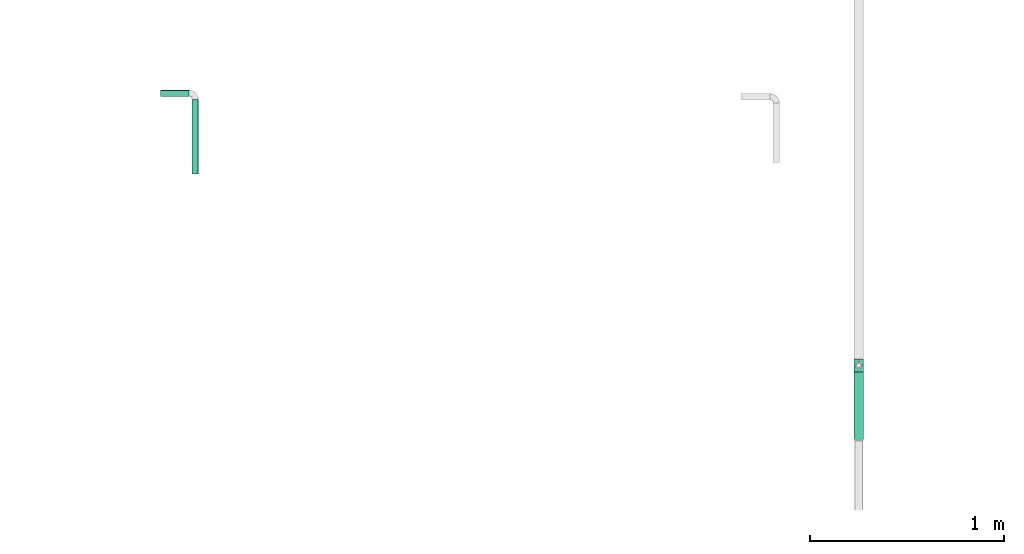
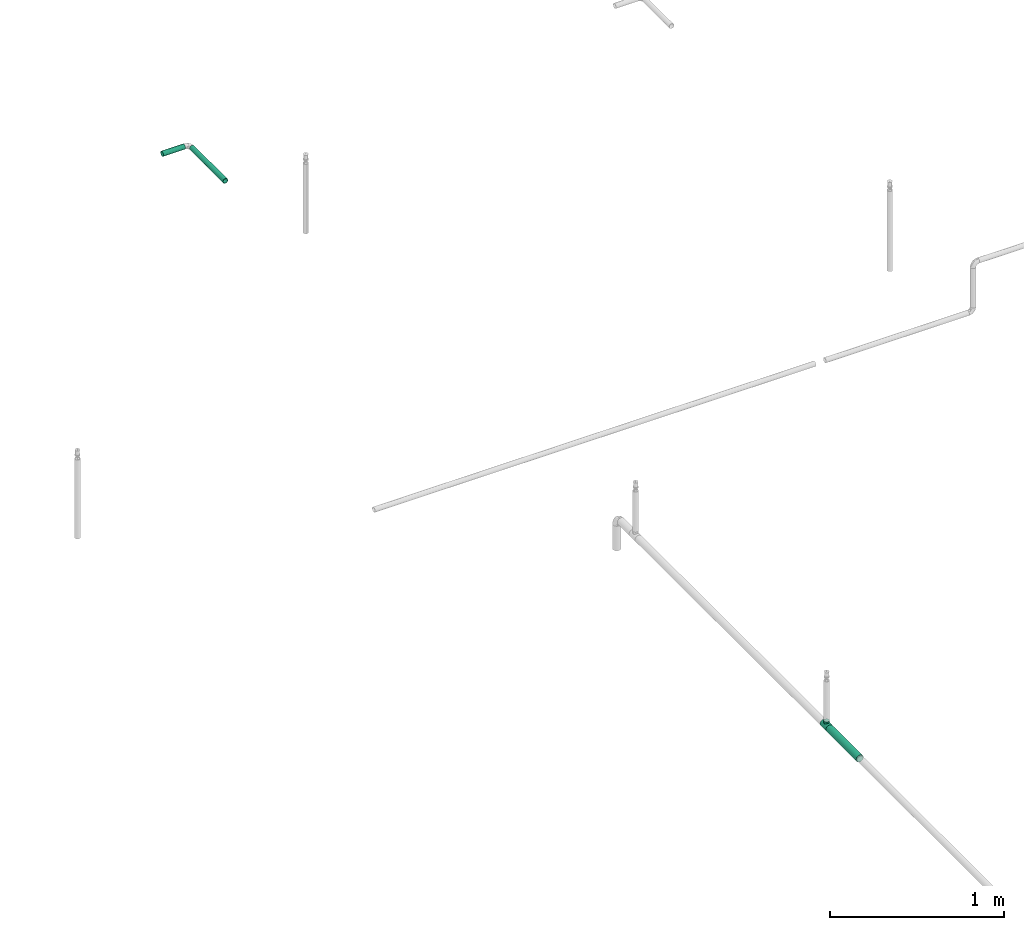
# One storey, part 5 of 63: 3 flow segments, 1 flow fitting.
"""IFC2X3 building model written with IfcOpenShell, lengths in millimetres."""

from ifc_helpers import new_model, entity, si_unit, converted_unit, derived_unit, direction, frame, origin_with_axes, origin_2d_with_axis, place, context, subcontext, project, spatial, hollow_circle, extrude, open_shell, surface_model, source, transform, mapped, type_object, element, save


model = new_model("IFC2X3")

# Units and contexts
model_context = context("Model", 3, precision=0.01, world=frame((0.0, 4.29681676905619e-09, 0.0)), true_north=direction((4.01073788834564e-13, 1.0)))
plan_context = context("Plan", 3, precision=0.01, world=frame((0.0, 4.29681676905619e-09, 0.0)), true_north=direction((4.01073788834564e-13, 1.0)))
body_context = subcontext(model_context, "Body", "Model", "MODEL_VIEW")
ifc_project = project(units=[converted_unit("PLANEANGLEUNIT", "DEGREE", entity("IfcPositiveLengthMeasure", 0.0174532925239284), si_unit("PLANEANGLEUNIT", "RADIAN"), dimensions=[0, 0, 0, 0, 0, 0, 0]), si_unit("AREAUNIT", "SQUARE_METRE"), si_unit("LENGTHUNIT", "METRE", prefix="MILLI"), si_unit("MASSUNIT", "GRAM", prefix="KILO"), si_unit("POWERUNIT", "WATT"), si_unit("PRESSUREUNIT", "PASCAL", prefix="KILO"), si_unit("FORCEUNIT", "NEWTON", prefix="KILO"), si_unit("ELECTRICVOLTAGEUNIT", "VOLT"), si_unit("ELECTRICCURRENTUNIT", "AMPERE"), si_unit("THERMODYNAMICTEMPERATUREUNIT", "DEGREE_CELSIUS"), si_unit("TIMEUNIT", "SECOND"), si_unit("VOLUMEUNIT", "CUBIC_METRE"), derived_unit("LINEARVELOCITYUNIT", [(si_unit("LENGTHUNIT", "METRE"), 1), (si_unit("TIMEUNIT", "SECOND"), -1)]), derived_unit("VOLUMETRICFLOWRATEUNIT", [(si_unit("VOLUMEUNIT", "CUBIC_METRE"), 1), (si_unit("TIMEUNIT", "SECOND"), -1)]), derived_unit("THERMALTRANSMITTANCEUNIT", [(si_unit("POWERUNIT", "WATT"), 1), (si_unit("THERMODYNAMICTEMPERATUREUNIT", "KELVIN"), -1), (si_unit("AREAUNIT", "SQUARE_METRE"), -1)]), derived_unit("SOUNDPRESSUREUNIT", [(si_unit("PRESSUREUNIT", "PASCAL"), 1)])], contexts=[model_context, plan_context])

# Site, building, storey
site_placement = place(None, frame((0.0, -4.29681676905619e-09, 0.0), z_axis=(0.0, 0.0, 1.0), x_axis=(1.0, 0.0, 0.0)))
site = spatial("IfcSite", under=ifc_project, at=site_placement, CompositionType="ELEMENT")
building_placement = place(site_placement, frame((0.0, 4.29681676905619e-09, 0.0), z_axis=(0.0, 0.0, 1.0), x_axis=(1.0, 0.0, 0.0)))
building = spatial("IfcBuilding", under=site, at=building_placement, Name="mc-building", CompositionType="ELEMENT")
storey_placement = place(building_placement, frame((0.0, 0.0, 207370.0), z_axis=(0.0, 0.0, 1.0), x_axis=(1.0, 0.0, 0.0)))
storey = spatial("IfcBuildingStorey", under=building, at=storey_placement, Name="Nivå E", CompositionType="ELEMENT", Elevation=207370.0)

# Flow fitting
pipe_fitting_type = type_object("IfcPipeFittingType", Name="magi_pipe_fe_tee_centric_90_NOR", PredefinedType="JUNCTION")
shared_shape_1 = source(origin_with_axes(), body_context, "Body", "SurfaceModel", [
    surface_model("IfcShellBasedSurfaceModel", [(-33.8, 0.0, -24.2), (-33.8, -6.26342, -23.37541), (-33.8, 6.26342, -23.37541), (-33.8, 12.1, -20.95781), (-33.8, 17.11198, -17.11198), (-33.8, 20.95781, -12.1), (-33.8, -23.37541, -6.26342), (-33.8, 23.37541, -6.26342), (-33.8, -17.11198, -17.11198), (-33.8, -20.95781, -12.1), (-33.8, -12.1, -20.95781), (-33.8, -24.2, 0.0), (-33.8, -23.37541, 6.26342), (-33.8, 20.95781, 12.1), (-33.8, 23.37541, 6.26342), (-33.8, 24.2, 0.0), (-33.8, 12.1, 20.95781), (-33.8, 17.11198, 17.11198), (-33.8, -17.11198, 17.11198), (-33.8, 6.26342, 23.37541), (-33.8, -20.95781, 12.1), (-33.8, -12.1, 20.95781), (-33.8, -6.26342, 23.37541), (-33.8, 0.0, 24.2), (33.8, 6.26342, -23.37541), (33.8, -6.26342, -23.37541), (33.8, 0.0, -24.2), (33.8, 17.11198, -17.11198), (33.8, 12.1, -20.95781), (33.8, -23.37541, -6.26342), (33.8, 20.95781, -12.1), (33.8, 23.37541, -6.26342), (33.8, -17.11198, -17.11198), (33.8, -12.1, -20.95781), (33.8, -20.95781, -12.1), (33.8, -24.2, 0.0), (33.8, 24.2, 0.0), (33.8, 23.37541, 6.26342), (33.8, 20.95781, 12.1), (33.8, -23.37541, 6.26342), (33.8, -17.11198, 17.11198), (33.8, 12.1, 20.95781), (33.8, 17.11198, 17.11198), (33.8, 6.26342, 23.37541), (33.8, -20.95781, 12.1), (33.8, -12.1, 20.95781), (33.8, 0.0, 24.2), (33.8, -6.26342, 23.37541), (15.81824, -23.45734, 5.94922), (16.9, -24.2, 0.0), (12.87025, -21.57947, 10.95293), (33.8, -19.0349, 14.60599), (8.52813, -19.30697, 14.59044), (3.03527, -17.5853, 16.6252), (-3.04044, -17.58619, 16.62425), (-8.52961, -19.30762, 14.58958), (-33.8, -19.0349, 14.60599), (-16.9, -24.2, 0.0), (-15.81885, -23.45775, 5.9476), (-12.87368, -21.58151, 10.9489), (3.03527, -17.5853, -16.6252), (33.8, -19.0349, -14.60599), (8.52813, -19.30697, -14.59044), (-8.52961, -19.30762, -14.58958), (-33.8, -19.0349, -14.60599), (12.87025, -21.57947, -10.95293), (-3.04044, -17.58619, -16.62425), (15.81824, -23.45734, -5.94922), (-12.87368, -21.58151, -10.9489), (-15.81885, -23.45775, -5.9476), (4.37404, -36.3, -16.32415), (-16.9, -36.3, 0.0), (0.0, -36.3, -16.9), (14.63583, -36.3, -8.45), (8.45, -36.3, -14.63583), (16.32415, -36.3, -4.37404), (11.9501, -36.3, -11.9501), (-11.9501, -36.3, -11.9501), (-8.45, -36.3, -14.63583), (-4.37404, -36.3, -16.32415), (-14.63583, -36.3, -8.45), (-16.32415, -36.3, -4.37404), (16.9, -36.3, 0.0), (8.45, -36.3, 14.63583), (16.32415, -36.3, 4.37404), (14.63583, -36.3, 8.45), (-8.45, -36.3, 14.63583), (11.9501, -36.3, 11.9501), (4.37404, -36.3, 16.32415), (-16.32415, -36.3, 4.37404), (-11.9501, -36.3, 11.9501), (-14.63583, -36.3, 8.45), (0.0, -36.3, 16.9), (-4.37404, -36.3, 16.32415), (-16.35943, -23.82888, 2.9738), (16.35912, -23.82867, 2.97461), (-0.00259, -17.58575, 16.62472), (16.35912, -23.82867, -2.97461), (-0.00259, -17.58575, -16.62472), (-16.35943, -23.82888, -2.9738)], [open_shell([[[0, 1, 2]], [[3, 2, 4]], [[5, 2, 6]], [[4, 2, 5]], [[7, 5, 6]], [[8, 9, 10]], [[1, 10, 9]], [[1, 9, 2]], [[9, 6, 2]], [[6, 11, 7]], [[11, 12, 7]], [[13, 14, 15]], [[13, 15, 12]], [[16, 17, 18]], [[12, 17, 13]], [[19, 16, 18]], [[20, 18, 12]], [[18, 17, 12]], [[21, 22, 18]], [[23, 18, 22]], [[18, 23, 19]], [[7, 12, 15]], [[24, 25, 26]], [[27, 24, 28]], [[29, 24, 30]], [[30, 24, 27]], [[29, 30, 31]], [[25, 32, 33]], [[32, 25, 34]], [[24, 34, 25]], [[24, 29, 34]], [[31, 35, 29]], [[31, 36, 35]], [[36, 37, 38]], [[39, 36, 38]], [[40, 38, 41]], [[41, 38, 42]], [[40, 41, 43]], [[39, 40, 44]], [[39, 38, 40]], [[45, 46, 47]], [[46, 45, 40]], [[43, 46, 40]], [[36, 39, 35]], [[35, 39, 48]], [[48, 49, 35]], [[39, 50, 48]], [[51, 40, 52]], [[52, 50, 44]], [[53, 52, 40]], [[54, 53, 21]], [[44, 50, 39]], [[55, 18, 56]], [[57, 58, 11]], [[12, 11, 58]], [[58, 59, 12]], [[55, 54, 18]], [[55, 20, 59]], [[20, 55, 56]], [[59, 20, 12]], [[18, 54, 21]], [[52, 44, 51]], [[53, 40, 45]], [[23, 47, 46]], [[22, 45, 47]], [[19, 46, 43]], [[38, 37, 14]], [[17, 41, 42]], [[13, 42, 38]], [[43, 41, 16]], [[15, 37, 36]], [[21, 45, 22]], [[22, 47, 23]], [[19, 23, 46]], [[43, 16, 19]], [[16, 41, 17]], [[13, 17, 42]], [[14, 13, 38]], [[37, 15, 14]], [[45, 21, 53]], [[5, 31, 30]], [[7, 36, 31]], [[4, 30, 27]], [[26, 25, 1]], [[2, 28, 24]], [[0, 24, 26]], [[27, 28, 3]], [[10, 25, 33]], [[15, 36, 7]], [[7, 31, 5]], [[4, 5, 30]], [[27, 3, 4]], [[3, 28, 2]], [[0, 2, 24]], [[1, 0, 26]], [[25, 10, 1]], [[33, 60, 10]], [[61, 34, 62]], [[63, 9, 64]], [[62, 60, 32]], [[34, 65, 62]], [[66, 10, 60]], [[29, 35, 67]], [[67, 65, 29]], [[49, 67, 35]], [[29, 65, 34]], [[66, 63, 8]], [[62, 32, 61]], [[64, 8, 63]], [[63, 68, 9]], [[8, 10, 66]], [[68, 69, 6]], [[69, 11, 6]], [[11, 69, 57]], [[68, 6, 9]], [[60, 33, 32]], [[70, 71, 72]], [[73, 70, 74]], [[73, 75, 70]], [[73, 74, 76]], [[71, 70, 75]], [[72, 77, 78]], [[78, 79, 72]], [[80, 71, 81]], [[77, 72, 80]], [[71, 80, 72]], [[75, 82, 71]], [[83, 82, 84]], [[83, 84, 85]], [[86, 71, 83]], [[83, 85, 87]], [[86, 83, 88]], [[89, 90, 91]], [[90, 89, 86]], [[86, 92, 93]], [[89, 71, 86]], [[88, 92, 86]], [[83, 71, 82]], [[89, 94, 71]], [[59, 91, 90]], [[89, 91, 58]], [[90, 86, 55]], [[89, 58, 94]], [[94, 57, 71]], [[58, 91, 59]], [[95, 48, 84]], [[55, 93, 54]], [[55, 59, 90]], [[92, 53, 96]], [[55, 86, 93]], [[53, 92, 88]], [[83, 52, 88]], [[87, 85, 50]], [[87, 52, 83]], [[48, 85, 84]], [[87, 50, 52]], [[52, 53, 88]], [[82, 95, 84]], [[48, 50, 85]], [[95, 82, 49]], [[92, 54, 93]], [[96, 54, 92]], [[75, 97, 82]], [[65, 73, 76]], [[75, 73, 67]], [[76, 74, 62]], [[97, 49, 82]], [[67, 73, 65]], [[62, 70, 60]], [[62, 65, 76]], [[72, 66, 98]], [[62, 74, 70]], [[99, 71, 57]], [[99, 69, 81]], [[75, 67, 97]], [[79, 66, 72]], [[69, 80, 81]], [[77, 80, 68]], [[72, 60, 70]], [[79, 63, 66]], [[63, 79, 78]], [[78, 77, 63]], [[63, 77, 68]], [[68, 80, 69]], [[71, 99, 81]], [[98, 60, 72]]])]),
])
flow_fitting_placement = place(storey_placement, frame((719641.29045, 437211.81651, 2700.0), z_axis=(-1.0, 0.0, 0.0), x_axis=(0.0, 1.0, 0.0)))
element("IfcFlowFitting", 1, at=flow_fitting_placement, inside=storey, type_object=pipe_fitting_type, Name="magi_pipe_fe_tee_centric_90_NOR", context=body_context, shape_type="MappedRepresentation", body=[
    mapped(shared_shape_1, transform((0.0, 0.0, 0.0), scale=1.0)),
])

# Flow segments
pipe_segment_type = type_object("IfcPipeSegmentType", Name="Stålrør normaltykke", PredefinedType="RIGIDSEGMENT")
shared_shape_2 = source(origin_with_axes(), body_context, "Body", "SweptSolid", [
    extrude(hollow_circle(Radius=24.1, WallThickness=2.0, at=origin_2d_with_axis()), frame((0.0, 0.0, 0.0), z_axis=(1.0, 0.0, 0.0), x_axis=(0.0, 1.0, 0.0)), (0.0, 0.0, 1.0), 348.6),
])
flow_segment_1_placement = place(storey_placement, frame((719641.29045, 437178.01651, 2700.0), z_axis=(0.0, 0.0, 1.0), x_axis=(0.0, -1.0, 0.0)))
element("IfcFlowSegment", 2, at=flow_segment_1_placement, inside=storey, type_object=pipe_segment_type, Name="Stålrør normaltykke", context=body_context, shape_type="MappedRepresentation", body=[
    mapped(shared_shape_2, transform((0.0, 0.0, 0.0), scale=1.0)),
])
shared_shape_3 = source(origin_with_axes(), body_context, "Body", "SweptSolid", [
    extrude(hollow_circle(Radius=16.9, WallThickness=2.0, at=origin_2d_with_axis()), frame((0.0, 0.0, 0.0), z_axis=(1.0, 0.0, 0.0), x_axis=(0.0, 1.0, 0.0)), (0.0, 0.0, 1.0), 384.7),
])
flow_segment_2_placement = place(storey_placement, frame((716213.48481, 438199.83424, 7130.0), z_axis=(0.0, 0.0, 1.0), x_axis=(0.0, 1.0, 0.0)))
element("IfcFlowSegment", 3, at=flow_segment_2_placement, inside=storey, type_object=pipe_segment_type, Name="Stålrør normaltykke", context=body_context, shape_type="MappedRepresentation", body=[
    mapped(shared_shape_3, transform((0.0, 0.0, 0.0), scale=1.0)),
])
shared_shape_4 = source(origin_with_axes(), body_context, "Body", "SweptSolid", [
    extrude(hollow_circle(Radius=16.9, WallThickness=2.0, at=origin_2d_with_axis()), frame((0.0, 0.0, 0.0), z_axis=(1.0, 0.0, 0.0), x_axis=(0.0, 1.0, 0.0)), (0.0, 0.0, 1.0), 145.9),
])
flow_segment_3_placement = place(storey_placement, frame((716033.8, 438618.37443, 7130.0), z_axis=(0.0, 0.0, 1.0), x_axis=(1.0, 0.0, 0.0)))
element("IfcFlowSegment", 4, at=flow_segment_3_placement, inside=storey, type_object=pipe_segment_type, Name="Stålrør normaltykke", context=body_context, shape_type="MappedRepresentation", body=[
    mapped(shared_shape_4, transform((0.0, 0.0, 0.0), scale=1.0)),
])

save(model, "model.ifc")
